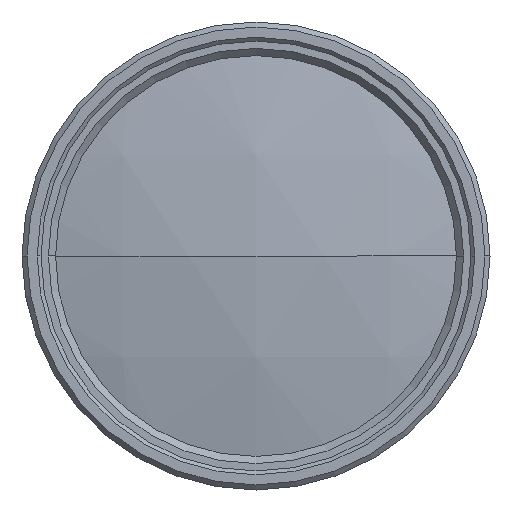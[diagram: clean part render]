
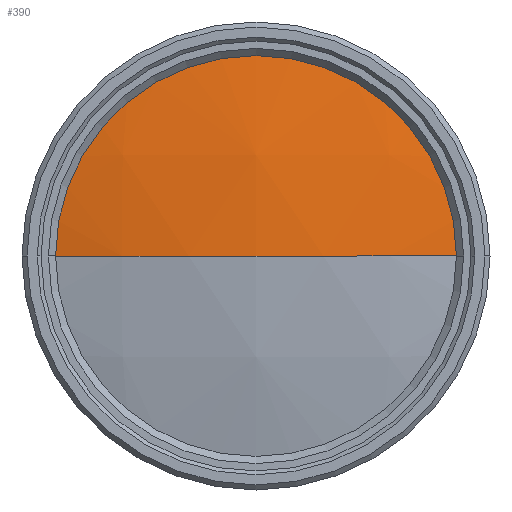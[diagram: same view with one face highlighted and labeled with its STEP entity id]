
A CAD part, left-side view. The second image highlights one B-rep face of the part: STEP entity #390.
In plain terms, the highlighted spherical face has radius 88.5 mm.
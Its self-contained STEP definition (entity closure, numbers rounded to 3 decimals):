
#17 = CIRCLE ( 'NONE', #895, 88.5 ) ;
#314 = EDGE_CURVE ( 'NONE', #710, #3080, #1519, .T. ) ;
#321 = VERTEX_POINT ( 'NONE', #352 ) ;
#352 = CARTESIAN_POINT ( 'NONE',  ( -145.16, 0., 0. ) ) ;
#390 = ADVANCED_FACE ( 'NONE', ( #1255 ), #1979, .T. ) ;
#430 = CARTESIAN_POINT ( 'NONE',  ( -142.94, 19.7, 0. ) ) ;
#464 = CARTESIAN_POINT ( 'NONE',  ( -56.66, 0., 0. ) ) ;
#595 = AXIS2_PLACEMENT_3D ( 'NONE', #464, #1484, #747 ) ;
#626 = EDGE_CURVE ( 'NONE', #321, #710, #17, .T. ) ;
#710 = VERTEX_POINT ( 'NONE', #430 ) ;
#747 = DIRECTION ( 'NONE',  ( 0., 1., 0. ) ) ;
#802 = ORIENTED_EDGE ( 'NONE', *, *, #2676, .T. ) ;
#895 = AXIS2_PLACEMENT_3D ( 'NONE', #1541, #1502, #3474 ) ;
#919 = DIRECTION ( 'NONE',  ( 0., 0., 1. ) ) ;
#942 = DIRECTION ( 'NONE',  ( 1., 0., 0. ) ) ;
#1064 = CARTESIAN_POINT ( 'NONE',  ( -142.94, -19.7, 0. ) ) ;
#1255 = FACE_OUTER_BOUND ( 'NONE', #2850, .T. ) ;
#1287 = AXIS2_PLACEMENT_3D ( 'NONE', #3425, #942, #2612 ) ;
#1484 = DIRECTION ( 'NONE',  ( 0., 0., 1. ) ) ;
#1502 = DIRECTION ( 'NONE',  ( 0., 0., -1. ) ) ;
#1519 = CIRCLE ( 'NONE', #1287, 19.7 ) ;
#1541 = CARTESIAN_POINT ( 'NONE',  ( -56.66, 0., 0. ) ) ;
#1805 = ORIENTED_EDGE ( 'NONE', *, *, #314, .F. ) ;
#1979 = SPHERICAL_SURFACE ( 'NONE', #595, 88.5 ) ;
#2587 = CARTESIAN_POINT ( 'NONE',  ( -56.66, 0., 0. ) ) ;
#2612 = DIRECTION ( 'NONE',  ( 0., 1., 0. ) ) ;
#2620 = CIRCLE ( 'NONE', #3318, 88.5 ) ;
#2676 = EDGE_CURVE ( 'NONE', #321, #3080, #2620, .T. ) ;
#2850 = EDGE_LOOP ( 'NONE', ( #3275, #802, #1805 ) ) ;
#2871 = DIRECTION ( 'NONE',  ( 0., -1., 0. ) ) ;
#3080 = VERTEX_POINT ( 'NONE', #1064 ) ;
#3275 = ORIENTED_EDGE ( 'NONE', *, *, #626, .F. ) ;
#3318 = AXIS2_PLACEMENT_3D ( 'NONE', #2587, #919, #2871 ) ;
#3425 = CARTESIAN_POINT ( 'NONE',  ( -142.94, 0., 0. ) ) ;
#3474 = DIRECTION ( 'NONE',  ( -1., 0., 0. ) ) ;
